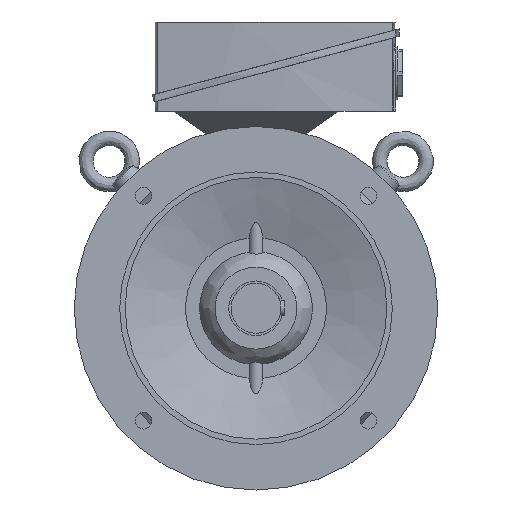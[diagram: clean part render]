
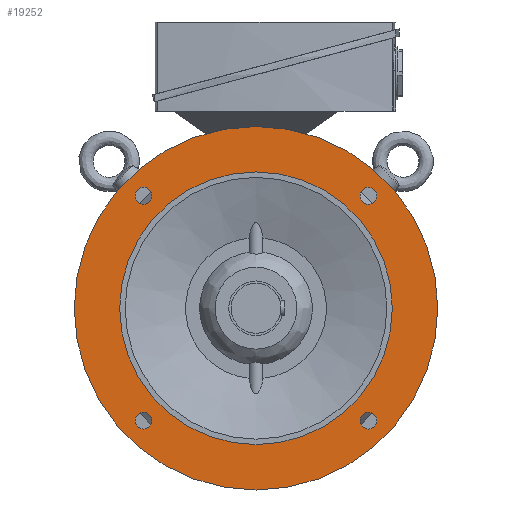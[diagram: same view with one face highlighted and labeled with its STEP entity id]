
A CAD part, left-side view. The second image highlights one B-rep face of the part: STEP entity #19252.
In plain terms, the highlighted planar face has unit normal (-1, 0, 0).
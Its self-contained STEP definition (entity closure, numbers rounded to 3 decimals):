
#4746 = ORIENTED_EDGE ( 'NONE', *, *, #29763, .T. ) ;
#4747 = ORIENTED_EDGE ( 'NONE', *, *, #29825, .F. ) ;
#4748 = ORIENTED_EDGE ( 'NONE', *, *, #29756, .T. ) ;
#4749 = ORIENTED_EDGE ( 'NONE', *, *, #29837, .T. ) ;
#4750 = ORIENTED_EDGE ( 'NONE', *, *, #29775, .T. ) ;
#4751 = ORIENTED_EDGE ( 'NONE', *, *, #29818, .T. ) ;
#11558 = FACE_BOUND ( 'NONE', #12065, .T. ) ;
#11560 = FACE_BOUND ( 'NONE', #12052, .T. ) ;
#11562 = FACE_BOUND ( 'NONE', #12049, .T. ) ;
#11564 = FACE_BOUND ( 'NONE', #12051, .T. ) ;
#11566 = FACE_OUTER_BOUND ( 'NONE', #12071, .T. ) ;
#11568 = FACE_BOUND ( 'NONE', #12050, .T. ) ;
#12049 = EDGE_LOOP ( 'NONE', ( #4750 ) ) ;
#12050 = EDGE_LOOP ( 'NONE', ( #4751 ) ) ;
#12051 = EDGE_LOOP ( 'NONE', ( #4749 ) ) ;
#12052 = EDGE_LOOP ( 'NONE', ( #4748 ) ) ;
#12065 = EDGE_LOOP ( 'NONE', ( #4746 ) ) ;
#12071 = EDGE_LOOP ( 'NONE', ( #4747 ) ) ;
#14808 = VERTEX_POINT ( 'NONE', #15400 ) ;
#14810 = VERTEX_POINT ( 'NONE', #15403 ) ;
#14811 = VERTEX_POINT ( 'NONE', #15405 ) ;
#14812 = VERTEX_POINT ( 'NONE', #15406 ) ;
#14813 = VERTEX_POINT ( 'NONE', #15408 ) ;
#14814 = VERTEX_POINT ( 'NONE', #15410 ) ;
#15201 = CARTESIAN_POINT ( 'NONE',  ( -87., -123.744, -123.744 ) ) ;
#15203 = DIRECTION ( 'NONE',  ( 1., 0., 0. ) ) ;
#15205 = DIRECTION ( 'NONE',  ( 0., 0., -1. ) ) ;
#15241 = CARTESIAN_POINT ( 'NONE',  ( -87., 0., 0. ) ) ;
#15243 = DIRECTION ( 'NONE',  ( 1., 0., 0. ) ) ;
#15245 = DIRECTION ( 'NONE',  ( 0., 0., 1. ) ) ;
#15317 = CARTESIAN_POINT ( 'NONE',  ( -87., 123.744, 123.744 ) ) ;
#15319 = DIRECTION ( 'NONE',  ( 1., 0., 0. ) ) ;
#15321 = DIRECTION ( 'NONE',  ( 0., 0., -1. ) ) ;
#15400 = CARTESIAN_POINT ( 'NONE',  ( -87., -123.744, 114.494 ) ) ;
#15403 = CARTESIAN_POINT ( 'NONE',  ( -87., 0., 150. ) ) ;
#15405 = CARTESIAN_POINT ( 'NONE',  ( -87., 123.744, -132.994 ) ) ;
#15406 = CARTESIAN_POINT ( 'NONE',  ( -87., -123.744, -132.994 ) ) ;
#15408 = CARTESIAN_POINT ( 'NONE',  ( -87., 0., 200. ) ) ;
#15410 = CARTESIAN_POINT ( 'NONE',  ( -87., 123.744, 114.494 ) ) ;
#19252 = ADVANCED_FACE ( 'NONE', ( #11558, #11566, #11560, #11564, #11562, #11568 ), #26624, .T. ) ;
#20646 = AXIS2_PLACEMENT_3D ( 'NONE', #26180, #26181, #26182 ) ;
#20650 = AXIS2_PLACEMENT_3D ( 'NONE', #26197, #26198, #26199 ) ;
#20652 = AXIS2_PLACEMENT_3D ( 'NONE', #26222, #26223, #26224 ) ;
#20666 = AXIS2_PLACEMENT_3D ( 'NONE', #15201, #15203, #15205 ) ;
#20670 = AXIS2_PLACEMENT_3D ( 'NONE', #15241, #15243, #15245 ) ;
#20680 = AXIS2_PLACEMENT_3D ( 'NONE', #15317, #15319, #15321 ) ;
#24485 = CIRCLE ( 'NONE', #20646, 9.25 ) ;
#24498 = CIRCLE ( 'NONE', #20650, 150. ) ;
#24515 = CIRCLE ( 'NONE', #20652, 9.25 ) ;
#24599 = CIRCLE ( 'NONE', #20666, 9.25 ) ;
#24611 = CIRCLE ( 'NONE', #20670, 200. ) ;
#24633 = CIRCLE ( 'NONE', #20680, 9.25 ) ;
#26180 = CARTESIAN_POINT ( 'NONE',  ( -87., -123.744, 123.744 ) ) ;
#26181 = DIRECTION ( 'NONE',  ( 1., 0., 0. ) ) ;
#26182 = DIRECTION ( 'NONE',  ( 0., 0., -1. ) ) ;
#26197 = CARTESIAN_POINT ( 'NONE',  ( -87., 0., 0. ) ) ;
#26198 = DIRECTION ( 'NONE',  ( 1., 0., 0. ) ) ;
#26199 = DIRECTION ( 'NONE',  ( 0., 0., 1. ) ) ;
#26222 = CARTESIAN_POINT ( 'NONE',  ( -87., 123.744, -123.744 ) ) ;
#26223 = DIRECTION ( 'NONE',  ( 1., 0., 0. ) ) ;
#26224 = DIRECTION ( 'NONE',  ( 0., 0., -1. ) ) ;
#26624 = PLANE ( 'NONE',  #32326 ) ;
#26643 = CARTESIAN_POINT ( 'NONE',  ( -87., 175., 0. ) ) ;
#26644 = DIRECTION ( 'NONE',  ( -1., 0., 0. ) ) ;
#26645 = DIRECTION ( 'NONE',  ( 0., 0., 1. ) ) ;
#29756 = EDGE_CURVE ( 'NONE', #14808, #14808, #24485, .T. ) ;
#29763 = EDGE_CURVE ( 'NONE', #14810, #14810, #24498, .T. ) ;
#29775 = EDGE_CURVE ( 'NONE', #14811, #14811, #24515, .T. ) ;
#29818 = EDGE_CURVE ( 'NONE', #14812, #14812, #24599, .T. ) ;
#29825 = EDGE_CURVE ( 'NONE', #14813, #14813, #24611, .T. ) ;
#29837 = EDGE_CURVE ( 'NONE', #14814, #14814, #24633, .T. ) ;
#32326 = AXIS2_PLACEMENT_3D ( 'NONE', #26643, #26644, #26645 ) ;
